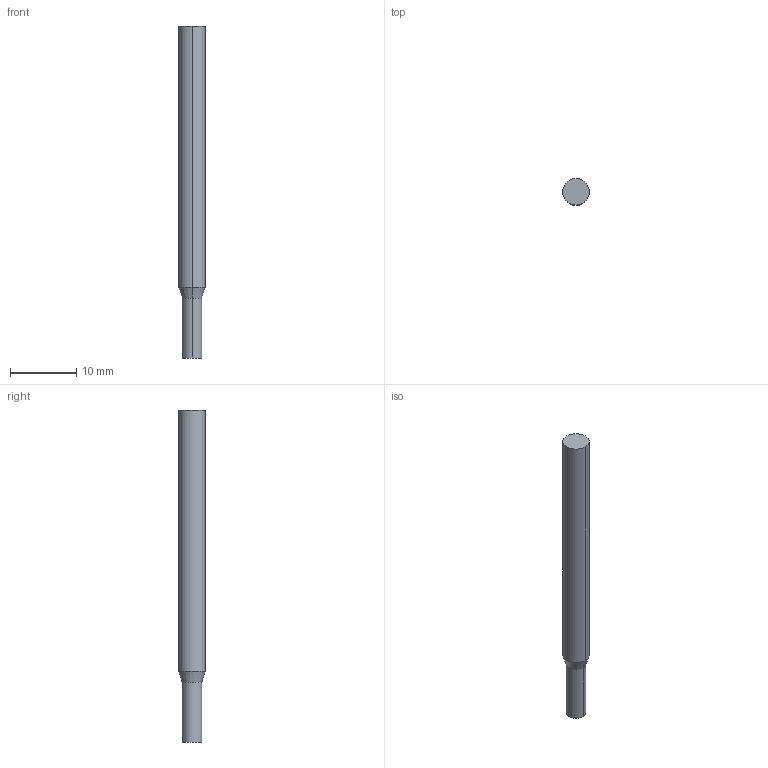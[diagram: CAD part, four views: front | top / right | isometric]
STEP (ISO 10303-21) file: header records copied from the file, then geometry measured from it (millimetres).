
FILE_DESCRIPTION((' '),'2;1');
FILE_NAME( '3MVRM0300AH.stp', '2026-01-21T19:06:14', (' '), ('--- Datakit www.datakit.com---'), ' Datakit CrossCadWare V2025.4 Sep 19 2025', 'Mastercam 2027', ' ');
FILE_SCHEMA(('AUTOMOTIVE_DESIGN { 1 0 10303 214 1 1 1 1 }'));
Length unit declared in the file: inch
Products named in the file (1): 3MVRM0300AH
Bounding box: 4 x 4 x 50 mm (x, y, z)
Volume: 574.2 mm3; surface area: 618 mm2
Topology: 1 solids, 1 shells, 8 faces, 14 edges, 8 vertices
Faces by surface type: cylinder 4, plane 2, cone 2
Entity records: 264 total; most frequent: DIRECTION 48, CARTESIAN_POINT 35, ORIENTED_EDGE 28, AXIS2_PLACEMENT_3D 21, EDGE_CURVE 14, VERTEX_POINT 8, CIRCLE 8, EDGE_LOOP 8
